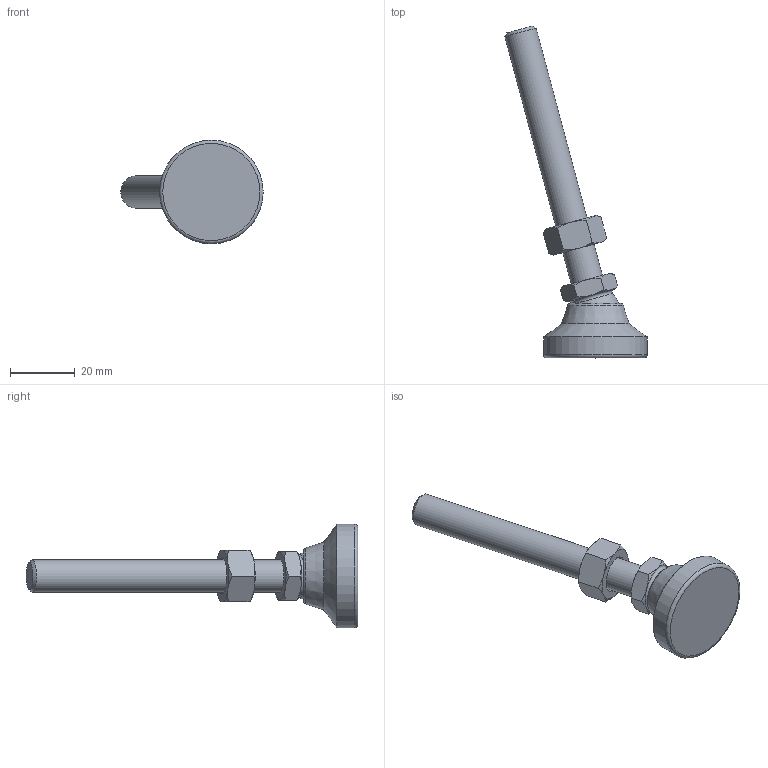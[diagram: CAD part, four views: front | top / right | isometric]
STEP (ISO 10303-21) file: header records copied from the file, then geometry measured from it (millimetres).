
FILE_DESCRIPTION( ( 'STEP AP214' ), ' ' );
FILE_NAME( 'O:/ganter_2015/teil_2/2_5/gn343_2/gn343_2_kse/Levelling foot with threaded stud GN 343.2-32-M10-80-KSE-(15).stp', '2015-10-26T09:15:51', ( '' ), ( '' ), ' ', 'PARTsolutions', ' ' );
FILE_SCHEMA( ( 'AUTOMOTIVE_DESIGN { 1 0 10303 214 1 1 1 1 }' ) );
Length unit declared in the file: millimetre
Products named in the file (4): Levelling foot with threaded stud GN 343.2-32-M10-80-KSE-(15); _Levelling foot with threaded stud GN 343.2-32-M10-80-KSE-(15)_foot; _Levelling foot with threaded stud GN 343.2-32-M10-80-KSE-(15)_screw; _Levelling foot with threaded stud GN 343.2-32-M10-80-KSE-(15)_nut
Assembly tree (3 placements, depth 2):
  Levelling foot with threaded stud GN 343.2-32-M10-80-KSE-(15)
    _Levelling foot with threaded stud GN 343.2-32-M10-80-KSE-(15)_foot
    _Levelling foot with threaded stud GN 343.2-32-M10-80-KSE-(15)_screw
    _Levelling foot with threaded stud GN 343.2-32-M10-80-KSE-(15)_nut
Bounding box: 43.96 x 102.49 x 32 mm (x, y, z)
Volume: 18214.3 mm3; surface area: 7498.9 mm2
Topology: 3 solids, 3 shells, 50 faces, 107 edges, 63 vertices
Faces by surface type: cone 24, plane 18, torus 3, cylinder 3, sphere 2
Full cylindrical faces by diameter (mm): 8.376 x1, 10 x1, 32 x1
Entity records: 1874 total; most frequent: CARTESIAN_POINT 468, DIRECTION 188, ORIENTED_EDGE 176, AXIS2_PLACEMENT_3D 88, EDGE_CURVE 88, EDGE_LOOP 66, VERTEX_POINT 60, FACE_OUTER_BOUND 56
